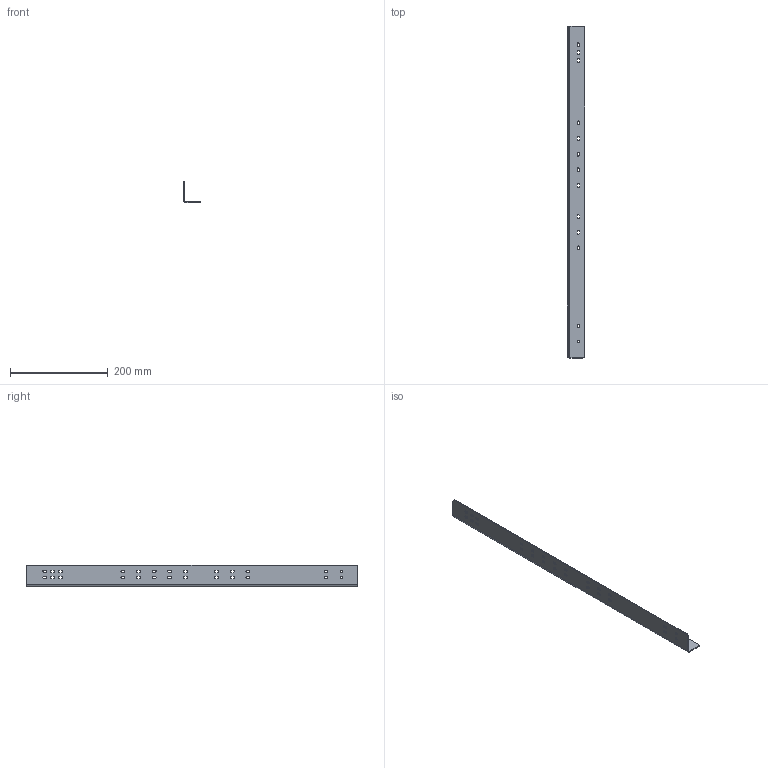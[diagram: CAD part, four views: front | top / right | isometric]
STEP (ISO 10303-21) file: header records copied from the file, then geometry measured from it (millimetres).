
FILE_DESCRIPTION(/* description */ (''),/* implementation_level */ '2;1');
FILE_NAME(/* name */ 'C:\Users\MelKon\Desktop\Winkel 1305319\WI_1305319-680_links.stp',/* time_stamp */ '2017-10-24T12:47:08+02:00',/* author */ ('MelKon'),/* organization */ (''),/* preprocessor_version */ 'ST-DEVELOPER v15.6',/* originating_system */ 'Autodesk Inventor 2015',/* authorisation */ '');
FILE_SCHEMA (('AUTOMOTIVE_DESIGN { 1 0 10303 214 3 1 1 }'));
Length unit declared in the file: millimetre
Products named in the file (1): WI_1305319-680_links
Bounding box: 35 x 680 x 44.7 mm (x, y, z)
Volume: 100698.1 mm3; surface area: 105365.6 mm2
Topology: 1 solids, 1 shells, 161 faces, 477 edges, 318 vertices
Faces by surface type: cylinder 81, plane 80
Full cylindrical faces by diameter (mm): 5 x3
Entity records: 5598 total; most frequent: DIRECTION 960, CARTESIAN_POINT 954, ORIENTED_EDGE 948, EDGE_CURVE 474, AXIS2_PLACEMENT_3D 324, VERTEX_POINT 318, LINE 312, VECTOR 312
